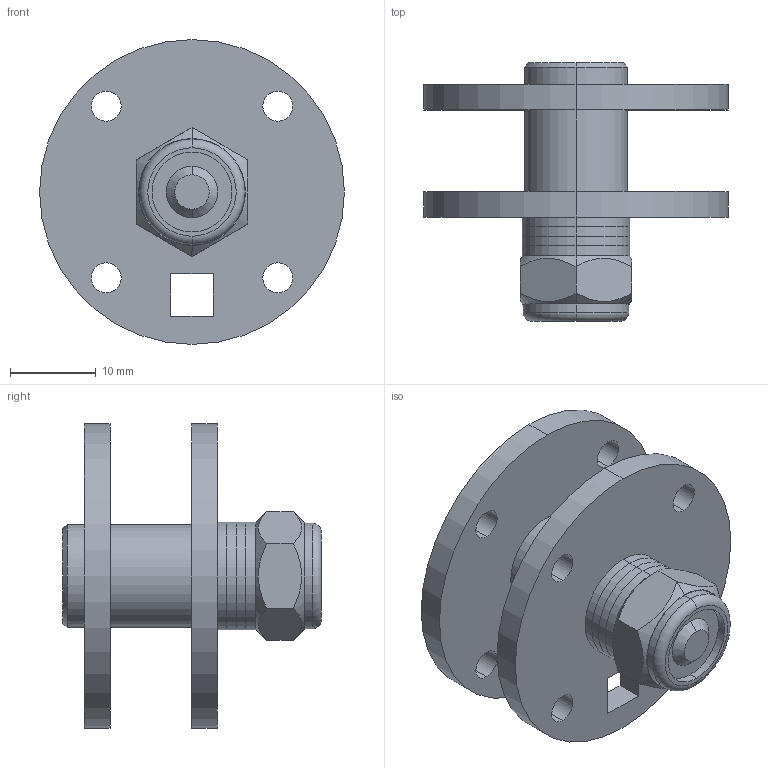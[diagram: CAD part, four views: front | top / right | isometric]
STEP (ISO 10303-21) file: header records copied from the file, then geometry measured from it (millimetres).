
FILE_DESCRIPTION (( 'STEP AP203' ), '1' );
FILE_NAME ('XG11-143.STEP', '2025-06-19T08:57:24', ( '微软用户' ), ( '微软中国' ), 'SwSTEP 2.0', 'SolidWorks 2024', '' );
FILE_SCHEMA (( 'CONFIG_CONTROL_DESIGN' ));
Length unit declared in the file: millimetre
Products named in the file (1): XG11-143
Bounding box: 35.5 x 30.1 x 35.5 mm (x, y, z)
Volume: 8445.5 mm3; surface area: 6248.9 mm2
Topology: 4 solids, 4 shells, 76 faces, 172 edges, 112 vertices
Faces by surface type: cylinder 36, plane 30, cone 8, torus 2
Entity records: 2401 total; most frequent: CARTESIAN_POINT 517, DIRECTION 400, ORIENTED_EDGE 344, EDGE_CURVE 172, AXIS2_PLACEMENT_3D 163, VERTEX_POINT 112, EDGE_LOOP 104, CIRCLE 86
